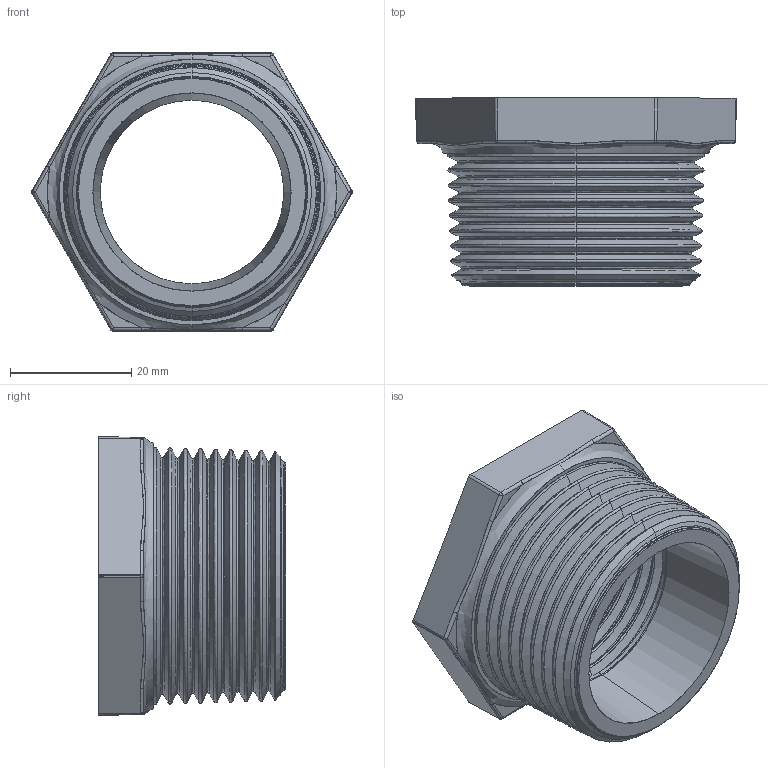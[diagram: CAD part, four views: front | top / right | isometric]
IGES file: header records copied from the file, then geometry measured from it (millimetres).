
Start section: SolidWorks IGES file using analytic representation for surfaces
Global section: file name: C:\Users\Joel Rosa\Desktop\Tubulação\12-01-OK\12-01-037.IGS; native system: SolidWorks 2011; preprocessor: SolidWorks 2011; author: Joel Rosa; date: 121203.200231; units: millimetre
Bounding box: 52.96 x 31 x 46 mm (x, y, z)
Surface area: 11975 mm2 (no closed solid volume)
Topology: 0 solids, 0 shells, 335 faces, 2453 edges, 2453 vertices
Faces by surface type: bspline 236, revolution 99
